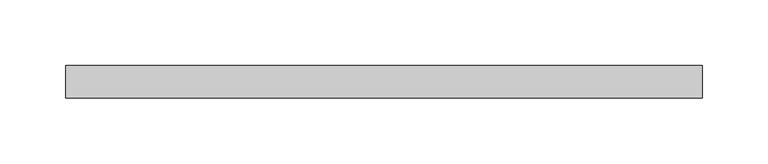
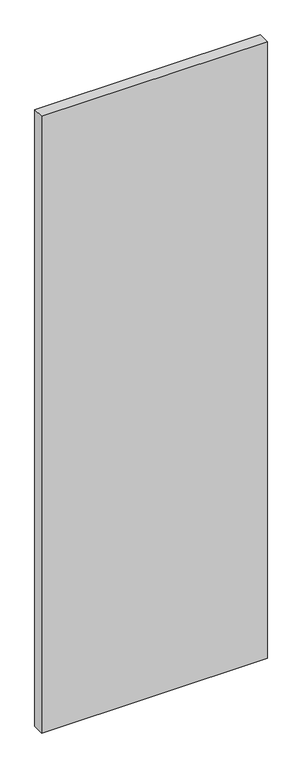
"""IFC4 building model written with IfcOpenShell, lengths in millimetres: plate geometry, Системная панель : ADSK_Cтеклопакет_25 мм."""

from ifc_helpers import new_model, si_unit, origin, origin_with_axes, place, context, project, spatial, polyline, outline, extrude, source, transform, mapped, element, save


def plate_244f3467(model_context):
    return source(origin(), model_context, "Body", "SweptSolid", [
        extrude(outline(polyline([(242.5087699, -12.5), (-242.5087699, -12.5), (-242.5087699, 12.5), (242.5087699, 12.5), (242.5087699, -12.5)])), origin_with_axes(), (0.0, 0.0, 1.0), 1400.0),
    ])


if __name__ == "__main__":
    model = new_model("IFC4")
    model_context = context("Model", 3, world=origin())
    ifc_project = project(units=[si_unit("LENGTHUNIT", "METRE", prefix="MILLI")], contexts=[model_context])
    site = spatial("IfcSite", under=ifc_project)
    building = spatial("IfcBuilding", under=site)
    placement = place(None, origin())
    plate_shape = plate_244f3467(model_context)
    element("IfcPlate", 1, ObjectType="Системная панель : ADSK_Cтеклопакет_25 мм", at=placement, inside=building, context=model_context, shape_type="MappedRepresentation", body=[
        mapped(plate_shape, transform((0.0, 0.0, 0.0), x_axis=(1.0, 0.0, 0.0), y_axis=(0.0, 1.0, 0.0), z_axis=(0.0, 0.0, 1.0))),
    ])
    save(model, "model.ifc")
